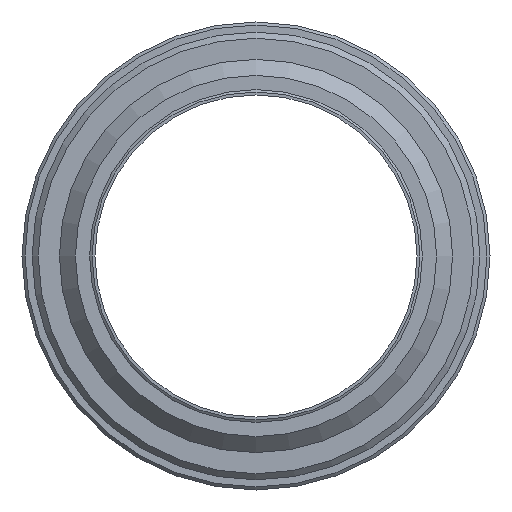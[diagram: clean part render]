
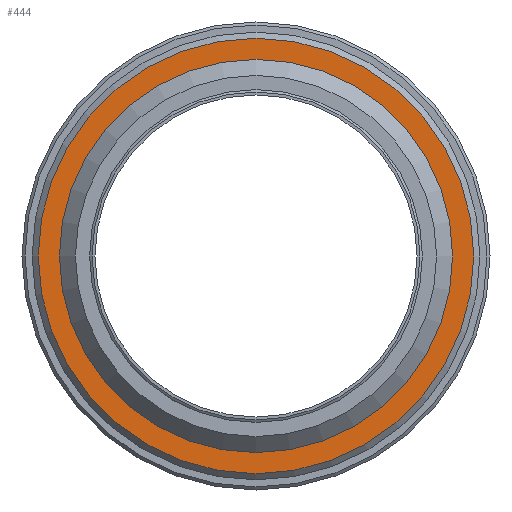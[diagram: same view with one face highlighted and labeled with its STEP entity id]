
A CAD part, left-side view. The second image highlights one B-rep face of the part: STEP entity #444.
In plain terms, the highlighted planar face has unit normal (-1, 0, 0).
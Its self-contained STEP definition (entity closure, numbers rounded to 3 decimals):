
#32=PLANE($,#509);
#59=FACE_BOUND($,#158,.T.);
#101=FACE_OUTER_BOUND($,#157,.T.);
#157=EDGE_LOOP($,(#362));
#158=EDGE_LOOP($,(#363));
#220=CIRCLE($,#507,68.05);
#222=CIRCLE($,#510,75.379);
#261=VERTEX_POINT($,#773);
#263=VERTEX_POINT($,#778);
#302=EDGE_CURVE($,#261,#261,#220,.T.);
#304=EDGE_CURVE($,#263,#263,#222,.T.);
#362=ORIENTED_EDGE($,*,*,#304,.F.);
#363=ORIENTED_EDGE($,*,*,#302,.T.);
#444=ADVANCED_FACE($,(#101,#59),#32,.T.);
#507=AXIS2_PLACEMENT_3D($,#774,#626,#627);
#509=AXIS2_PLACEMENT_3D($,#777,#630,#631);
#510=AXIS2_PLACEMENT_3D($,#779,#632,#633);
#626=DIRECTION('center_axis',(1.,0.,0.));
#627=DIRECTION('ref_axis',(0.,1.,0.));
#630=DIRECTION('center_axis',(-1.,0.,0.));
#631=DIRECTION('ref_axis',(0.,0.,1.));
#632=DIRECTION('center_axis',(1.,0.,0.));
#633=DIRECTION('ref_axis',(0.,1.,0.));
#773=CARTESIAN_POINT('',(-20.8,68.05,0.));
#774=CARTESIAN_POINT('Origin',(-20.8,0.,0.));
#777=CARTESIAN_POINT('Origin',(-20.8,71.714,0.));
#778=CARTESIAN_POINT('',(-20.8,75.379,0.));
#779=CARTESIAN_POINT('Origin',(-20.8,0.,0.));
